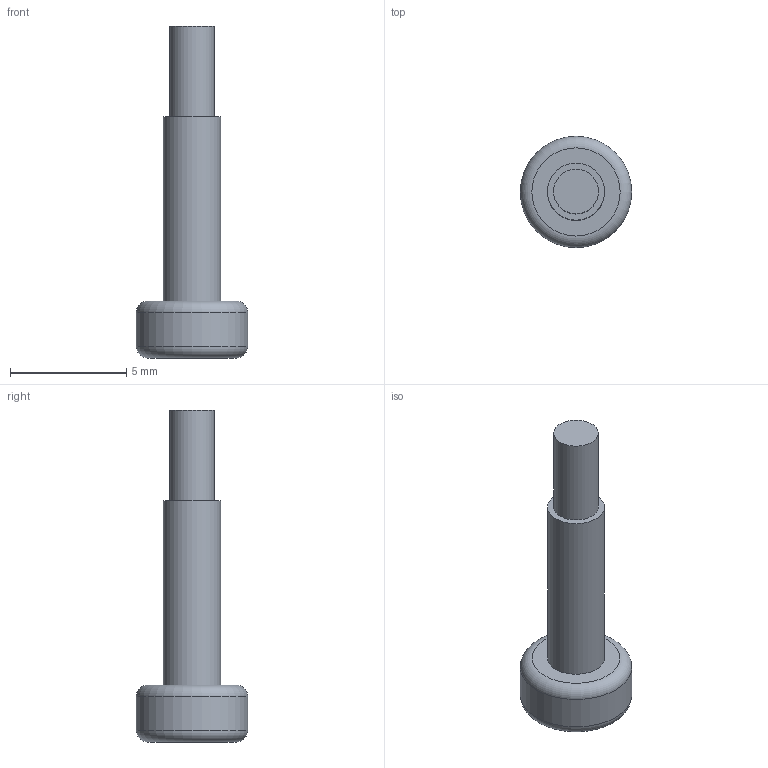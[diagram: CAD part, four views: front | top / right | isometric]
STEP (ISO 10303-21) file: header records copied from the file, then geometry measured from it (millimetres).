
FILE_DESCRIPTION(/* description */ (''),/* implementation_level */ '2;1');
FILE_NAME(/* name */ 'Y-JG-WJ-B00142-01.stp',/* time_stamp */ '2024-04-13T19:04:30+08:00',/* author */ (''),/* organization */ (''),/* preprocessor_version */ 'ST-DEVELOPER v16',/* originating_system */ 'SIEMENS PLM Software NX 10.0',/* authorisation */ '');
FILE_SCHEMA (('AUTOMOTIVE_DESIGN { 1 0 10303 214 3 1 1 1 }'));
Length unit declared in the file: millimetre
Products named in the file (1): _model3
Bounding box: 4.8 x 4.8 x 14.3 mm (x, y, z)
Volume: 88.1 mm3; surface area: 159.3 mm2
Topology: 1 solids, 1 shells, 16 faces, 31 edges, 20 vertices
Faces by surface type: plane 11, cylinder 3, torus 2
Full cylindrical faces by diameter (mm): 1.93 x1, 2.46 x1, 4.8 x1
Entity records: 406 total; most frequent: DIRECTION 68, CARTESIAN_POINT 63, ORIENTED_EDGE 52, EDGE_CURVE 26, AXIS2_PLACEMENT_3D 25, EDGE_LOOP 24, VERTEX_POINT 20, LINE 18
